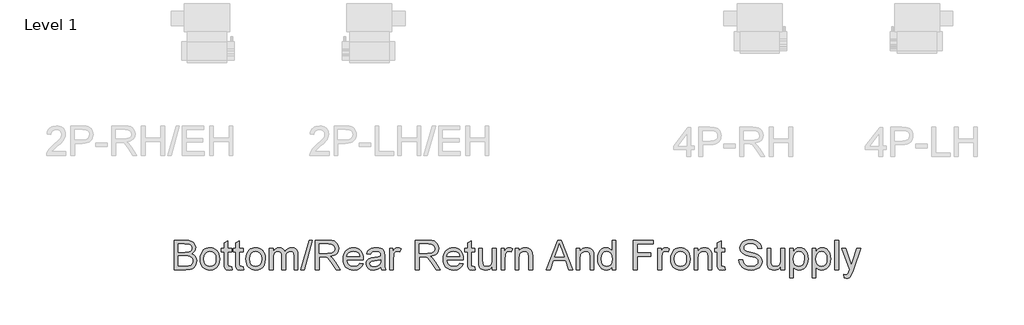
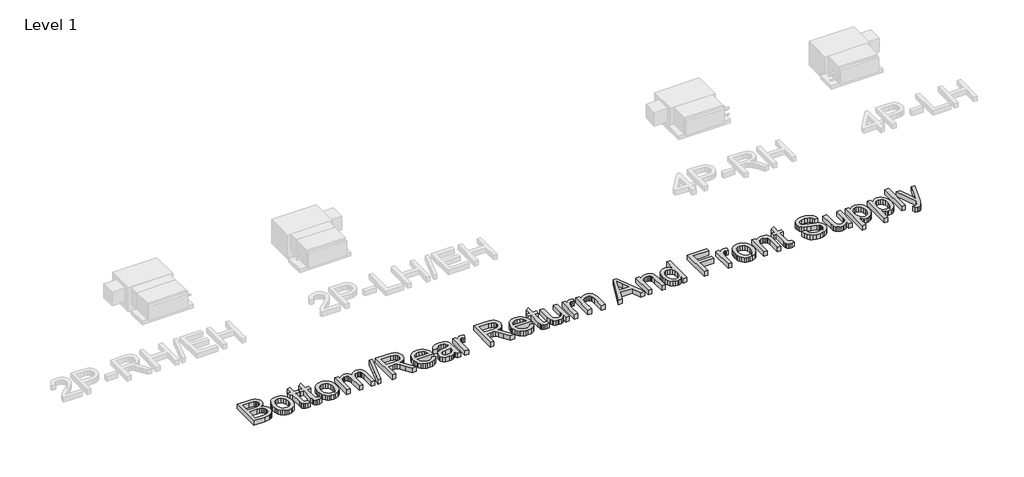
# One storey, part 2 of 3: 1 proxy.
"""IFC4 building model written with IfcOpenShell, lengths in millimetres."""

from ifc_helpers import new_model, si_unit, origin, origin_with_axes, place, context, project, spatial, polyline, outline, extrude, element, save

model = new_model("IFC4")

# Units and contexts
model_context = context("Model", 3, world=origin())
ifc_project = project(units=[si_unit("LENGTHUNIT", "METRE", prefix="MILLI")], contexts=[model_context])

# Site, building, storey
site = spatial("IfcSite", under=ifc_project)
building = spatial("IfcBuilding", under=site)
storey = spatial("IfcBuildingStorey", under=building, Name="Level 1", Elevation=0.0)

# Proxy
placement = place(None, origin())
element("IfcBuildingElementProxy", 1, Name="24\" Arial", ObjectType="24\" Arial", at=placement, inside=storey, context=model_context, shape_type="SweptSolid", body=[
    extrude(outline(polyline([(-17807.2556214, -364.1592875), (-17807.2556214, -59.5921934), (-17691.0353167, -59.5921934), (-17659.0710151, -61.8322041), (-17634.1148796, -68.5522361), (-17614.9864897, -79.9195931), (-17600.5054249, -96.1015789), (-17591.3873731, -115.1370223), (-17588.3480226, -135.0647521), (-17590.9040513, -153.4030967), (-17598.5721376, -170.6446726), (-17611.4080494, -185.7298897), (-17629.4675545, -197.5991579), (-17607.8946717, -208.8642738), (-17591.9543468, -226.0036086), (-17582.1113123, -247.8832149), (-17578.8303009, -273.3691454), (-17581.0703115, -294.6074209), (-17587.7903435, -314.3027844), (-17597.819271, -331.0517438), (-17609.985968, -343.4508071), (-17624.885292, -352.4294391), (-17643.1121009, -358.9171048), (-17691.9276031, -364.1592875), (-17807.2556214, -364.1592875)]), holes=[polyline([(-17769.1847347, -183.3225754), (-17699.660752, -183.3225754), (-17659.0617204, -180.0508585), (-17644.8502004, -174.4090059), (-17634.63538, -165.960169), (-17628.473027, -154.8344728), (-17626.4189093, -141.1620426), (-17628.3336072, -127.8892822), (-17634.077701, -116.3267375), (-17643.3909404, -107.3016323), (-17656.0130752, -101.6411904), (-17704.9401132, -97.6630802), (-17769.1847347, -97.6630802), (-17769.1847347, -183.3225754)]), polyline([(-17769.1847347, -326.0884007), (-17691.1096739, -326.0884007), (-17662.8539377, -324.6012567), (-17638.9480976, -316.3104288), (-17623.1100139, -299.3941657), (-17618.4533942, -287.4412456), (-17616.9011876, -273.7409314), (-17618.722939, -257.8284905), (-17624.1881933, -244.1467655), (-17633.7337989, -233.4486233), (-17647.7966045, -226.4869304), (-17667.7150396, -222.6668292), (-17694.827534, -221.3934621), (-17769.1847347, -221.3934621), (-17769.1847347, -326.0884007)])]), origin_with_axes(), (0.0, 0.0, 1.0), 50.8),
    extrude(outline(polyline([(-17540.7594141, -252.3260576), (-17538.7006491, -223.3592806), (-17532.5243541, -198.3984978), (-17522.2305292, -177.4437092), (-17507.8191742, -160.4949147), (-17493.3102254, -149.6620001), (-17477.2955433, -141.9242039), (-17459.7751279, -137.2815261), (-17440.7489792, -135.7339669), (-17419.7453936, -137.6184572), (-17400.7540998, -143.2719281), (-17383.7750978, -152.6943797), (-17368.8083875, -165.8858118), (-17356.5928936, -182.4000813), (-17347.8675408, -201.7910451), (-17342.6323292, -224.058703), (-17340.8872586, -249.2030552), (-17343.9730824, -287.6643172), (-17353.2305539, -316.942465), (-17368.3901282, -338.8685446), (-17389.1822605, -355.273602), (-17413.8781458, -365.5070117), (-17440.7489792, -368.9181483), (-17462.0592881, -367.040629), (-17481.2271803, -361.408071), (-17498.2526556, -352.0204744), (-17513.135714, -338.8778392), (-17525.2210828, -322.203237), (-17533.8534891, -302.2197393), (-17539.0329328, -278.9273462), (-17540.7594141, -252.3260576)]), holes=[polyline([(-17502.6885273, -252.2517004), (-17498.2828632, -286.7069683), (-17485.0658708, -311.2541392), (-17465.1753196, -325.948981), (-17440.7489792, -330.8472615), (-17416.4341745, -325.921097), (-17396.5808019, -311.1426034), (-17383.3638095, -286.2701197), (-17378.9581454, -251.0619852), (-17383.3916935, -217.6105395), (-17396.6923377, -193.3979761), (-17416.5735943, -178.7031343), (-17440.7489792, -173.8048537), (-17465.1753196, -178.684545), (-17485.0658708, -193.3236189), (-17498.2828632, -217.8150218), (-17502.6885273, -252.2517004)])]), origin_with_axes(), (0.0, 0.0, 1.0), 50.8),
    extrude(outline(polyline([(-17217.1568767, -332.4087628), (-17212.3980158, -365.2746455), (-17240.8768237, -368.9181483), (-17259.1501058, -367.3380578), (-17272.7760628, -362.5977862), (-17282.4053203, -355.2921913), (-17288.6885037, -346.0161305), (-17292.1461136, -330.0851002), (-17293.2986502, -302.8145969), (-17293.2986502, -178.5637145), (-17321.8518152, -178.5637145), (-17321.8518152, -140.4928278), (-17293.2986502, -140.4928278), (-17293.2986502, -86.137714), (-17255.2277634, -63.7561966), (-17255.2277634, -140.4928278), (-17217.1568767, -140.4928278), (-17217.1568767, -178.5637145), (-17255.2277634, -178.5637145), (-17255.2277634, -301.6992389), (-17253.220119, -321.3295399), (-17246.7138639, -328.2819381), (-17233.7385324, -330.8472615), (-17217.1568767, -332.4087628)])), origin_with_axes(), (0.0, 0.0, 1.0), 50.8),
    extrude(outline(polyline([(-17098.1853555, -332.4087628), (-17093.4264947, -365.2746455), (-17121.9053026, -368.9181483), (-17140.1785846, -367.3380578), (-17153.8045417, -362.5977862), (-17163.4337991, -355.2921913), (-17169.7169826, -346.0161305), (-17173.1745924, -330.0851002), (-17174.3271291, -302.8145969), (-17174.3271291, -178.5637145), (-17202.8802941, -178.5637145), (-17202.8802941, -140.4928278), (-17174.3271291, -140.4928278), (-17174.3271291, -86.137714), (-17136.2562423, -63.7561966), (-17136.2562423, -140.4928278), (-17098.1853555, -140.4928278), (-17098.1853555, -178.5637145), (-17136.2562423, -178.5637145), (-17136.2562423, -301.6992389), (-17134.2485979, -321.3295399), (-17127.7423428, -328.2819381), (-17114.7670113, -330.8472615), (-17098.1853555, -332.4087628)])), origin_with_axes(), (0.0, 0.0, 1.0), 50.8),
    extrude(outline(polyline([(-17069.6321905, -252.3260576), (-17067.5734255, -223.3592806), (-17061.3971305, -198.3984978), (-17051.1033055, -177.4437092), (-17036.6919506, -160.4949147), (-17022.1830018, -149.6620001), (-17006.1683197, -141.9242039), (-16988.6479043, -137.2815261), (-16969.6217555, -135.7339669), (-16948.61817, -137.6184572), (-16929.6268762, -143.2719281), (-16912.6478741, -152.6943797), (-16897.6811638, -165.8858118), (-16885.46567, -182.4000813), (-16876.7403172, -201.7910451), (-16871.5051055, -224.058703), (-16869.760035, -249.2030552), (-16872.8458588, -287.6643172), (-16882.1033303, -316.942465), (-16897.2629046, -338.8685446), (-16918.0550368, -355.273602), (-16942.7509221, -365.5070117), (-16969.6217555, -368.9181483), (-16990.9320645, -367.040629), (-17010.0999567, -361.408071), (-17027.125432, -352.0204744), (-17042.0084904, -338.8778392), (-17054.0938592, -322.203237), (-17062.7262655, -302.2197393), (-17067.9057092, -278.9273462), (-17069.6321905, -252.3260576)]), holes=[polyline([(-17031.5613037, -252.2517004), (-17027.1556396, -286.7069683), (-17013.9386471, -311.2541392), (-16994.048096, -325.948981), (-16969.6217555, -330.8472615), (-16945.3069509, -325.921097), (-16925.4535783, -311.1426034), (-16912.2365859, -286.2701197), (-16907.8309217, -251.0619852), (-16912.2644698, -217.6105395), (-16925.5651141, -193.3979761), (-16945.4463706, -178.7031343), (-16969.6217555, -173.8048537), (-16994.048096, -178.684545), (-17013.9386471, -193.3236189), (-17027.1556396, -217.8150218), (-17031.5613037, -252.2517004)])]), origin_with_axes(), (0.0, 0.0, 1.0), 50.8),
    extrude(outline(polyline([(-16826.9302874, -364.1592875), (-16826.9302874, -140.4928278), (-16788.8594006, -140.4928278), (-16788.8594006, -177.2996421), (-16777.4083917, -160.3926736), (-16762.685666, -147.1477972), (-16745.1931345, -138.5874245), (-16725.4327084, -135.7339669), (-16704.2594955, -138.6431924), (-16687.2874645, -147.3708688), (-16674.6095617, -161.3407279), (-16666.3187339, -179.9765013), (-16652.4418213, -160.6203925), (-16636.6130322, -146.7946005), (-16618.8323666, -138.4991253), (-16599.0998244, -135.7339669), (-16570.4815968, -140.3348187), (-16549.3176786, -154.1373741), (-16536.2401059, -177.5134191), (-16531.880915, -210.8347396), (-16531.880915, -364.1592875), (-16569.9518018, -364.1592875), (-16569.9518018, -227.1933238), (-16573.4837688, -195.4056205), (-16578.4471119, -186.6407654), (-16586.2732073, -179.7534297), (-16596.3393134, -175.2919977), (-16608.0226885, -173.8048537), (-16628.6475171, -177.6156602), (-16645.4615391, -189.0480798), (-16656.6430031, -208.8828631), (-16660.3701578, -237.9007607), (-16660.3701578, -364.1592875), (-16698.4410446, -364.1592875), (-16698.4410446, -222.9549633), (-16700.6438766, -201.4285537), (-16707.2523729, -186.0737918), (-16718.8799801, -176.8720882), (-16736.1401453, -173.8048537), (-16750.8071032, -175.8496767), (-16764.3215244, -181.9841457), (-16775.4751045, -192.0595464), (-16783.059539, -205.9271644), (-16787.4094352, -225.1670901), (-16788.8594006, -251.359414), (-16788.8594006, -364.1592875), (-16826.9302874, -364.1592875)])), origin_with_axes(), (0.0, 0.0, 1.0), 50.8),
    extrude(outline(polyline([(-16503.3277499, -364.1592875), (-16417.6682547, -59.5921934), (-16383.315228, -59.5921934), (-16468.9747232, -364.1592875), (-16503.3277499, -364.1592875)])), origin_with_axes(), (0.0, 0.0, 1.0), 50.8),
    extrude(outline(polyline([(-16351.0442029, -364.1592875), (-16351.0442029, -59.5921934), (-16219.8037437, -59.5921934), (-16184.5305466, -61.6463111), (-16158.8680177, -67.8086641), (-16140.1114138, -79.1853158), (-16125.5559918, -96.8823295), (-16116.2148684, -118.8269984), (-16113.1011607, -142.9466154), (-16118.2596915, -172.9497459), (-16133.7352839, -197.8222295), (-16145.4581613, -207.9580454), (-16159.9926703, -216.058333), (-16197.4965835, -226.152323), (-16175.858638, -242.4365499), (-16145.0003998, -281.6227947), (-16094.2144317, -364.1592875), (-16138.4569661, -364.1592875), (-16178.0893541, -301.0300241), (-16206.7168763, -259.2412773), (-16226.8304991, -239.4994405), (-16244.9364775, -232.2496134), (-16267.0205661, -230.9111838), (-16312.9733161, -230.9111838), (-16312.9733161, -364.1592875), (-16351.0442029, -364.1592875)]), holes=[polyline([(-16312.9733161, -192.840297), (-16227.7599641, -192.840297), (-16203.2871505, -191.4925728), (-16184.2981803, -187.4494), (-16170.0030085, -180.4412338), (-16159.6115897, -170.1985294), (-16153.281933, -157.8087609), (-16151.1720474, -144.3594022), (-16155.1966309, -125.7886913), (-16167.2703814, -110.8243047), (-16188.0439243, -100.9533863), (-16218.1678852, -97.6630802), (-16312.9733161, -97.6630802), (-16312.9733161, -192.840297)])]), origin_with_axes(), (0.0, 0.0, 1.0), 50.8),
    extrude(outline(polyline([(-15894.639705, -297.5352356), (-15857.3123902, -302.2940965), (-15870.7617489, -330.4197076), (-15892.223096, -351.4442061), (-15921.2131096, -364.5496628), (-15957.248468, -368.9181483), (-15980.8708212, -367.033658), (-16001.9185563, -361.3801871), (-16020.3916734, -351.9577356), (-16036.2901723, -338.7663034), (-16049.0749635, -322.1730294), (-16058.2069572, -302.545052), (-16063.6861535, -279.8823715), (-16065.5125522, -254.1849876), (-16063.6675642, -227.6162303), (-16058.1326, -204.1983595), (-16048.9076598, -183.9313749), (-16035.9927435, -166.8152768), (-16020.1360705, -153.2172037), (-16002.08586, -143.5042944), (-15981.8421121, -137.6765488), (-15959.4048268, -135.7339669), (-15937.6902005, -137.6719015), (-15918.0529286, -143.4857051), (-15900.4930109, -153.1753778), (-15885.0104475, -166.7409196), (-15872.3720471, -183.8198391), (-15863.3446182, -204.0496451), (-15857.9281608, -227.4303373), (-15856.122675, -253.961916), (-15856.3457466, -264.2232097), (-16027.4416655, -264.2232097), (-16020.8517585, -292.7206069), (-16005.5434698, -313.6707482), (-15983.4500866, -326.5531332), (-15956.504896, -330.8472615), (-15936.2425588, -328.8582064), (-15919.1775812, -322.8910411), (-15905.3099633, -312.5739795), (-15894.639705, -297.5352356)]), holes=[polyline([(-16027.4416655, -226.152323), (-15894.1935618, -226.152323), (-15899.3427979, -206.0387002), (-15909.4367879, -191.6505818), (-15931.6324123, -178.2662857), (-15959.5535412, -173.8048537), (-15985.2160701, -177.3647047), (-16006.4357563, -188.0442576), (-16021.1863659, -204.6909759), (-16027.4416655, -226.152323)])]), origin_with_axes(), (0.0, 0.0, 1.0), 50.8),
    extrude(outline(polyline([(-15675.2859629, -335.6061224), (-15693.4755932, -351.2025452), (-15712.2043131, -361.408071), (-15731.8996766, -367.040629), (-15752.9892377, -368.9181483), (-15784.8048249, -364.4009484), (-15808.2738164, -350.8493485), (-15822.7455866, -330.2709932), (-15827.56951, -304.6735269), (-15825.7477586, -288.8912111), (-15820.2825043, -274.5588606), (-15811.8522567, -262.2899225), (-15801.1355251, -252.6978436), (-15774.4784687, -240.2058339), (-15741.5382288, -234.4803294), (-15702.6122342, -228.4573962), (-15675.5090345, -221.3934621), (-15675.2859629, -212.9167412), (-15677.9070543, -195.9261209), (-15685.7703282, -184.8097194), (-15703.3558062, -176.5560701), (-15727.8565038, -173.8048537), (-15750.53545, -175.6358997), (-15766.3735338, -181.1290379), (-15777.1739172, -191.2880905), (-15784.7397624, -207.1168796), (-15822.8106491, -202.3580187), (-15816.2021529, -181.5380025), (-15806.3405292, -165.1794184), (-15792.3056075, -152.6688194), (-15773.1772177, -143.3927586), (-15749.7825834, -137.6486648), (-15722.9489286, -135.7339669), (-15697.2120425, -137.4255932), (-15676.8102855, -142.5004722), (-15661.4276397, -150.1313799), (-15650.7480867, -159.4910925), (-15643.6655633, -171.0629319), (-15639.0740062, -185.3302198), (-15637.2150762, -218.6422457), (-15637.2150762, -266.0077825), (-15635.281789, -332.1485126), (-15627.6973545, -364.1592875), (-15665.7682412, -364.1592875), (-15671.8655317, -350.9237057), (-15675.2859629, -335.6061224)]), holes=[polyline([(-15675.2859629, -259.4643489), (-15736.7050107, -271.1384294), (-15769.4593576, -277.310077), (-15784.2936192, -287.3482991), (-15789.4986232, -301.9966677), (-15786.6637549, -313.3175515), (-15778.1591501, -322.5936123), (-15764.1707017, -328.7838492), (-15744.8843028, -330.8472615), (-15724.4360726, -328.5700723), (-15706.3672728, -321.7385045), (-15691.7189043, -311.6723984), (-15681.5319678, -299.6915945), (-15677.0147679, -287.3482991), (-15675.5090345, -270.246143), (-15675.2859629, -259.4643489)])]), origin_with_axes(), (0.0, 0.0, 1.0), 50.8),
    extrude(outline(polyline([(-15584.8676069, -364.1592875), (-15584.8676069, -140.4928278), (-15551.555581, -140.4928278), (-15551.555581, -173.5817821), (-15539.2494643, -154.3976243), (-15527.9099911, -143.0953298), (-15516.5333394, -137.5743076), (-15504.1156869, -135.7339669), (-15485.1546007, -138.6710763), (-15465.8960858, -147.4824046), (-15478.6111671, -181.6123597), (-15491.9954632, -175.7567302), (-15505.3797593, -173.8048537), (-15516.7471164, -175.682373), (-15526.9061689, -181.3149309), (-15535.113345, -190.2749736), (-15540.6250725, -202.1349471), (-15545.2538082, -223.4011065), (-15546.7967201, -246.6005532), (-15546.7967201, -364.1592875), (-15584.8676069, -364.1592875)])), origin_with_axes(), (0.0, 0.0, 1.0), 50.8),
    extrude(outline(polyline([(-15318.3713996, -364.1592875), (-15318.3713996, -59.5921934), (-15187.1309403, -59.5921934), (-15151.8577433, -61.6463111), (-15126.1952144, -67.8086641), (-15107.4386105, -79.1853158), (-15092.8831884, -96.8823295), (-15083.5420651, -118.8269984), (-15080.4283573, -142.9466154), (-15085.5868881, -172.9497459), (-15101.0624805, -197.8222295), (-15112.7853579, -207.9580454), (-15127.319867, -216.058333), (-15164.8237801, -226.152323), (-15143.1858347, -242.4365499), (-15112.3275964, -281.6227947), (-15061.5416284, -364.1592875), (-15105.7841628, -364.1592875), (-15145.4165507, -301.0300241), (-15174.044073, -259.2412773), (-15194.1576958, -239.4994405), (-15212.2636742, -232.2496134), (-15234.3477628, -230.9111838), (-15280.3005128, -230.9111838), (-15280.3005128, -364.1592875), (-15318.3713996, -364.1592875)]), holes=[polyline([(-15280.3005128, -192.840297), (-15195.0871608, -192.840297), (-15170.6143471, -191.4925728), (-15151.625377, -187.4494), (-15137.3302052, -180.4412338), (-15126.9387864, -170.1985294), (-15120.6091297, -157.8087609), (-15118.4992441, -144.3594022), (-15122.5238276, -125.7886913), (-15134.597578, -110.8243047), (-15155.371121, -100.9533863), (-15185.4950819, -97.6630802), (-15280.3005128, -97.6630802), (-15280.3005128, -192.840297)])]), origin_with_axes(), (0.0, 0.0, 1.0), 50.8),
    extrude(outline(polyline([(-14861.9669017, -297.5352356), (-14824.6395869, -302.2940965), (-14838.0889456, -330.4197076), (-14859.5502927, -351.4442061), (-14888.5403063, -364.5496628), (-14924.5756647, -368.9181483), (-14948.1980179, -367.033658), (-14969.245753, -361.3801871), (-14987.71887, -351.9577356), (-15003.617369, -338.7663034), (-15016.4021602, -322.1730294), (-15025.5341539, -302.545052), (-15031.0133501, -279.8823715), (-15032.8397489, -254.1849876), (-15030.9947608, -227.6162303), (-15025.4597967, -204.1983595), (-15016.2348565, -183.9313749), (-15003.3199402, -166.8152768), (-14987.4632672, -153.2172037), (-14969.4130567, -143.5042944), (-14949.1693088, -137.6765488), (-14926.7320235, -135.7339669), (-14905.0173972, -137.6719015), (-14885.3801252, -143.4857051), (-14867.8202076, -153.1753778), (-14852.3376442, -166.7409196), (-14839.6992437, -183.8198391), (-14830.6718148, -204.0496451), (-14825.2553575, -227.4303373), (-14823.4498717, -253.961916), (-14823.6729433, -264.2232097), (-14994.7688621, -264.2232097), (-14988.1789552, -292.7206069), (-14972.8706665, -313.6707482), (-14950.7772833, -326.5531332), (-14923.8320927, -330.8472615), (-14903.5697555, -328.8582064), (-14886.5047779, -322.8910411), (-14872.63716, -312.5739795), (-14861.9669017, -297.5352356)]), holes=[polyline([(-14994.7688621, -226.152323), (-14861.5207585, -226.152323), (-14866.6699946, -206.0387002), (-14876.7639846, -191.6505818), (-14898.959609, -178.2662857), (-14926.8807379, -173.8048537), (-14952.5432668, -177.3647047), (-14973.7629529, -188.0442576), (-14988.5135626, -204.6909759), (-14994.7688621, -226.152323)])]), origin_with_axes(), (0.0, 0.0, 1.0), 50.8),
    extrude(outline(polyline([(-14704.4783506, -332.4087628), (-14699.7194897, -365.2746455), (-14728.1982976, -368.9181483), (-14746.4715797, -367.3380578), (-14760.0975367, -362.5977862), (-14769.7267942, -355.2921913), (-14776.0099777, -346.0161305), (-14779.4675875, -330.0851002), (-14780.6201241, -302.8145969), (-14780.6201241, -178.5637145), (-14809.1732892, -178.5637145), (-14809.1732892, -140.4928278), (-14780.6201241, -140.4928278), (-14780.6201241, -86.137714), (-14742.5492373, -63.7561966), (-14742.5492373, -140.4928278), (-14704.4783506, -140.4928278), (-14704.4783506, -178.5637145), (-14742.5492373, -178.5637145), (-14742.5492373, -301.6992389), (-14740.5415929, -321.3295399), (-14734.0353379, -328.2819381), (-14721.0600063, -330.8472615), (-14704.4783506, -332.4087628)])), origin_with_axes(), (0.0, 0.0, 1.0), 50.8),
    extrude(outline(polyline([(-14523.6416385, -364.1592875), (-14523.6416385, -325.7166147), (-14537.4163099, -344.6172857), (-14553.458876, -358.1177649), (-14571.7693366, -366.2180525), (-14592.3476919, -368.9181483), (-14610.8905189, -367.0220397), (-14628.1506841, -361.3337138), (-14642.6317489, -352.7826358), (-14652.8372747, -342.2982705), (-14659.7060211, -329.5645998), (-14664.1767478, -314.2656058), (-14666.4074638, -278.8715783), (-14666.4074638, -140.4928278), (-14628.3365771, -140.4928278), (-14628.3365771, -260.9514929), (-14626.0315039, -299.7659517), (-14620.4825978, -312.7133992), (-14610.9741707, -322.5564337), (-14598.1382589, -328.7745546), (-14582.6068986, -330.8472615), (-14566.1832519, -328.7280813), (-14550.8191953, -322.3705407), (-14538.1505873, -312.3602025), (-14529.8132861, -299.2826298), (-14525.1845504, -281.3718391), (-14523.6416385, -256.8618469), (-14523.6416385, -140.4928278), (-14485.5707517, -140.4928278), (-14485.5707517, -364.1592875), (-14523.6416385, -364.1592875)])), origin_with_axes(), (0.0, 0.0, 1.0), 50.8),
    extrude(outline(polyline([(-14433.2232824, -364.1592875), (-14433.2232824, -140.4928278), (-14399.9112565, -140.4928278), (-14399.9112565, -173.5817821), (-14387.6051398, -154.3976243), (-14376.2656667, -143.0953298), (-14364.889015, -137.5743076), (-14352.4713625, -135.7339669), (-14333.5102763, -138.6710763), (-14314.2517613, -147.4824046), (-14326.9668426, -181.6123597), (-14340.3511388, -175.7567302), (-14353.7354349, -173.8048537), (-14365.1027919, -175.682373), (-14375.2618445, -181.3149309), (-14383.4690205, -190.2749736), (-14388.980748, -202.1349471), (-14393.6094838, -223.4011065), (-14395.1523957, -246.6005532), (-14395.1523957, -364.1592875), (-14433.2232824, -364.1592875)])), origin_with_axes(), (0.0, 0.0, 1.0), 50.8),
    extrude(outline(polyline([(-14290.4574571, -364.1592875), (-14290.4574571, -140.4928278), (-14252.3865703, -140.4928278), (-14252.3865703, -171.722852), (-14239.1602833, -155.9777148), (-14223.2757263, -144.7311882), (-14204.7328993, -137.9832722), (-14183.5318025, -135.7339669), (-14164.765904, -137.5464237), (-14147.5800959, -142.983794), (-14133.2477455, -151.3675684), (-14123.0422197, -162.0192374), (-14111.6283894, -190.0147234), (-14109.620745, -226.8215378), (-14109.620745, -364.1592875), (-14147.6916317, -364.1592875), (-14147.6916317, -231.9521846), (-14152.0787066, -198.2683727), (-14158.1481131, -188.2394453), (-14167.5821829, -180.4598231), (-14179.6745227, -175.468596), (-14193.718739, -173.8048537), (-14216.0166045, -177.541303), (-14235.024164, -188.750651), (-14242.6202168, -197.901234), (-14248.0459687, -210.4071857), (-14252.3865703, -245.4851951), (-14252.3865703, -364.1592875), (-14290.4574571, -364.1592875)])), origin_with_axes(), (0.0, 0.0, 1.0), 50.8),
    extrude(outline(polyline([(-13969.0112785, -364.1592875), (-13847.4372553, -59.5921934), (-13815.0175158, -59.5921934), (-13693.4434927, -364.1592875), (-13733.6707382, -364.1592875), (-13768.5442654, -268.9820706), (-13893.984863, -268.9820706), (-13928.7840329, -364.1592875), (-13969.0112785, -364.1592875)]), holes=[polyline([(-13880.0057092, -230.9111838), (-13782.4490619, -230.9111838), (-13809.886869, -156.0334827), (-13831.2273856, -97.6630802), (-13850.1884717, -149.490049), (-13880.0057092, -230.9111838)])]), origin_with_axes(), (0.0, 0.0, 1.0), 50.8),
    extrude(outline(polyline([(-13657.5289647, -364.1592875), (-13657.5289647, -140.4928278), (-13619.458078, -140.4928278), (-13619.458078, -171.722852), (-13606.2317909, -155.9777148), (-13590.3472339, -144.7311882), (-13571.804407, -137.9832722), (-13550.6033101, -135.7339669), (-13531.8374116, -137.5464237), (-13514.6516036, -142.983794), (-13500.3192532, -151.3675684), (-13490.1137274, -162.0192374), (-13478.699897, -190.0147234), (-13476.6922526, -226.8215378), (-13476.6922526, -364.1592875), (-13514.7631394, -364.1592875), (-13514.7631394, -231.9521846), (-13519.1502142, -198.2683727), (-13525.2196207, -188.2394453), (-13534.6536906, -180.4598231), (-13546.7460303, -175.468596), (-13560.7902466, -173.8048537), (-13583.0881122, -177.541303), (-13602.0956716, -188.750651), (-13609.6917244, -197.901234), (-13615.1174764, -210.4071857), (-13619.458078, -245.4851951), (-13619.458078, -364.1592875), (-13657.5289647, -364.1592875)])), origin_with_axes(), (0.0, 0.0, 1.0), 50.8),
    extrude(outline(polyline([(-13286.3378188, -364.1592875), (-13286.3378188, -328.2447595), (-13297.7284125, -346.0393671), (-13311.5263206, -358.7498011), (-13327.731543, -366.3760615), (-13346.3440798, -368.9181483), (-13370.9563132, -365.2374669), (-13393.486545, -354.1954226), (-13412.559167, -336.5634714), (-13426.798571, -313.1130692), (-13435.6656671, -284.7922704), (-13438.6213659, -252.5491292), (-13435.8980334, -220.705658), (-13427.728036, -191.9480106), (-13414.1206682, -167.9120455), (-13395.0852249, -150.233621), (-13372.0623766, -139.3588804), (-13346.4927942, -135.7339669), (-13327.8663154, -138.3271743), (-13311.3961955, -146.1067964), (-13297.435631, -158.0318325), (-13286.3378188, -173.0612817), (-13286.3378188, -59.5921934), (-13248.2669321, -59.5921934), (-13248.2669321, -364.1592875), (-13286.3378188, -364.1592875)]), holes=[polyline([(-13400.5504791, -252.4004148), (-13396.2563508, -286.8370934), (-13383.3739657, -311.3284964), (-13364.6545405, -325.9675703), (-13342.8492914, -330.8472615), (-13321.0533369, -326.1906419), (-13302.8079388, -312.2207828), (-13290.4553488, -288.6774341), (-13286.3378188, -255.3003456), (-13290.529706, -218.8095494), (-13303.1053676, -193.5095119), (-13321.8154982, -178.7310182), (-13344.4107926, -173.8048537), (-13366.4391133, -178.5358306), (-13384.4893238, -192.7287612), (-13396.5351903, -217.1086284), (-13400.5504791, -252.4004148)])]), origin_with_axes(), (0.0, 0.0, 1.0), 50.8),
    extrude(outline(polyline([(-13067.43022, -364.1592875), (-13067.43022, -59.5921934), (-12862.7992036, -59.5921934), (-12862.7992036, -97.6630802), (-13029.3593332, -97.6630802), (-13029.3593332, -188.0814362), (-12886.5935079, -188.0814362), (-12886.5935079, -226.152323), (-13029.3593332, -226.152323), (-13029.3593332, -364.1592875), (-13067.43022, -364.1592875)])), origin_with_axes(), (0.0, 0.0, 1.0), 50.8),
    extrude(outline(polyline([(-12815.2105952, -364.1592875), (-12815.2105952, -140.4928278), (-12781.8985693, -140.4928278), (-12781.8985693, -173.5817821), (-12769.5924526, -154.3976243), (-12758.2529795, -143.0953298), (-12746.8763278, -137.5743076), (-12734.4586752, -135.7339669), (-12715.4975891, -138.6710763), (-12696.2390741, -147.4824046), (-12708.9541554, -181.6123597), (-12722.3384515, -175.7567302), (-12735.7227476, -173.8048537), (-12747.0901047, -175.682373), (-12757.2491573, -181.3149309), (-12765.4563333, -190.2749736), (-12770.9680608, -202.1349471), (-12775.5967965, -223.4011065), (-12777.1397084, -246.6005532), (-12777.1397084, -364.1592875), (-12815.2105952, -364.1592875)])), origin_with_axes(), (0.0, 0.0, 1.0), 50.8),
    extrude(outline(polyline([(-12681.9624915, -252.3260576), (-12679.9037265, -223.3592806), (-12673.7274316, -198.3984978), (-12663.4336066, -177.4437092), (-12649.0222516, -160.4949147), (-12634.5133028, -149.6620001), (-12618.4986207, -141.9242039), (-12600.9782053, -137.2815261), (-12581.9520566, -135.7339669), (-12560.9484711, -137.6184572), (-12541.9571773, -143.2719281), (-12524.9781752, -152.6943797), (-12510.0114649, -165.8858118), (-12497.795971, -182.4000813), (-12489.0706183, -201.7910451), (-12483.8354066, -224.058703), (-12482.0903361, -249.2030552), (-12485.1761599, -287.6643172), (-12494.4336314, -316.942465), (-12509.5932057, -338.8685446), (-12530.3853379, -355.273602), (-12555.0812232, -365.5070117), (-12581.9520566, -368.9181483), (-12603.2623656, -367.040629), (-12622.4302577, -361.408071), (-12639.455733, -352.0204744), (-12654.3387915, -338.8778392), (-12666.4241603, -322.203237), (-12675.0565665, -302.2197393), (-12680.2360103, -278.9273462), (-12681.9624915, -252.3260576)]), holes=[polyline([(-12643.8916048, -252.2517004), (-12639.4859406, -286.7069683), (-12626.2689482, -311.2541392), (-12606.378397, -325.948981), (-12581.9520566, -330.8472615), (-12557.637252, -325.921097), (-12537.7838794, -311.1426034), (-12524.566887, -286.2701197), (-12520.1612228, -251.0619852), (-12524.5947709, -217.6105395), (-12537.8954152, -193.3979761), (-12557.7766717, -178.7031343), (-12581.9520566, -173.8048537), (-12606.378397, -178.684545), (-12626.2689482, -193.3236189), (-12639.4859406, -217.8150218), (-12643.8916048, -252.2517004)])]), origin_with_axes(), (0.0, 0.0, 1.0), 50.8),
    extrude(outline(polyline([(-12439.2605885, -364.1592875), (-12439.2605885, -140.4928278), (-12401.1897017, -140.4928278), (-12401.1897017, -171.722852), (-12387.9634146, -155.9777148), (-12372.0788576, -144.7311882), (-12353.5360307, -137.9832722), (-12332.3349339, -135.7339669), (-12313.5690353, -137.5464237), (-12296.3832273, -142.983794), (-12282.0508769, -151.3675684), (-12271.8453511, -162.0192374), (-12260.4315208, -190.0147234), (-12258.4238764, -226.8215378), (-12258.4238764, -364.1592875), (-12296.4947631, -364.1592875), (-12296.4947631, -231.9521846), (-12300.881838, -198.2683727), (-12306.9512445, -188.2394453), (-12316.3853143, -180.4598231), (-12328.4776541, -175.468596), (-12342.5218703, -173.8048537), (-12364.8197359, -177.541303), (-12383.8272953, -188.750651), (-12391.4233481, -197.901234), (-12396.8491001, -210.4071857), (-12401.1897017, -245.4851951), (-12401.1897017, -364.1592875), (-12439.2605885, -364.1592875)])), origin_with_axes(), (0.0, 0.0, 1.0), 50.8),
    extrude(outline(polyline([(-12125.1757727, -332.4087628), (-12120.4169119, -365.2746455), (-12148.8957197, -368.9181483), (-12167.1690018, -367.3380578), (-12180.7949588, -362.5977862), (-12190.4242163, -355.2921913), (-12196.7073998, -346.0161305), (-12200.1650096, -330.0851002), (-12201.3175462, -302.8145969), (-12201.3175462, -178.5637145), (-12229.8707113, -178.5637145), (-12229.8707113, -140.4928278), (-12201.3175462, -140.4928278), (-12201.3175462, -86.137714), (-12163.2466595, -63.7561966), (-12163.2466595, -140.4928278), (-12125.1757727, -140.4928278), (-12125.1757727, -178.5637145), (-12163.2466595, -178.5637145), (-12163.2466595, -301.6992389), (-12161.239015, -321.3295399), (-12154.73276, -328.2819381), (-12141.7574285, -330.8472615), (-12125.1757727, -332.4087628)])), origin_with_axes(), (0.0, 0.0, 1.0), 50.8),
    extrude(outline(polyline([(-11977.6510865, -259.4643489), (-11939.5801998, -259.4643489), (-11935.2117142, -280.5910885), (-11927.3112616, -297.5724142), (-11914.9865556, -311.0496569), (-11897.3453098, -321.6641473), (-11875.7817216, -328.551483), (-11851.6899885, -330.8472615), (-11830.479597, -329.109162), (-11811.9088861, -323.8948633), (-11796.8608477, -315.641214), (-11786.2184733, -304.7850627), (-11779.8888166, -292.3209369), (-11777.778931, -279.2433643), (-11779.3590215, -266.500399), (-11784.0992931, -255.4862386), (-11793.7285506, -246.0893474), (-11809.9755989, -238.1981895), (-11865.4088921, -223.6613567), (-11901.7974471, -214.0413939), (-11925.0805456, -204.8861636), (-11944.0323371, -192.0781357), (-11957.4631065, -176.5560701), (-11965.4658002, -158.654574), (-11968.1333648, -138.7082549), (-11964.833764, -116.4103894), (-11954.9349617, -95.6182571), (-11938.697208, -77.9956006), (-11916.3807531, -65.206162), (-11889.5935716, -57.4265399), (-11859.9436378, -54.8333325), (-11827.8213271, -57.5473704), (-11799.7143052, -65.6894838), (-11776.6263944, -79.0923693), (-11759.5614169, -97.588723), (-11748.7610335, -120.0260083), (-11744.4669051, -145.2516886), (-11782.5377919, -145.2516886), (-11789.5273687, -122.5355638), (-11804.1013801, -106.139801), (-11826.8732728, -96.2131147), (-11858.4564938, -92.9042193), (-11890.7832868, -96.1759361), (-11912.9603219, -105.9910866), (-11925.786939, -120.4349729), (-11930.0624781, -137.5928969), (-11927.0324221, -152.2226762), (-11917.9422543, -163.9897032), (-11896.4530233, -174.5112471), (-11855.7796346, -185.2558626), (-11813.8049948, -195.4613884), (-11788.4120107, -204.3656632), (-11766.7090028, -218.1775132), (-11751.5680178, -235.2239014), (-11742.6730376, -255.3189349), (-11739.7080443, -278.2767207), (-11743.1191809, -301.7457121), (-11753.3525906, -323.8205061), (-11769.9900143, -342.8187709), (-11792.6131926, -357.0581748), (-11819.8186334, -365.9531549), (-11850.2028445, -368.9181483), (-11887.5022753, -365.7207887), (-11918.2025046, -356.1287098), (-11942.6567289, -340.104733), (-11961.2181452, -317.6116798), (-11973.1338866, -290.2110514), (-11977.6510865, -259.4643489)])), origin_with_axes(), (0.0, 0.0, 1.0), 50.8),
    extrude(outline(polyline([(-11544.5947496, -364.1592875), (-11544.5947496, -325.7166147), (-11558.3694211, -344.6172857), (-11574.4119871, -358.1177649), (-11592.7224478, -366.2180525), (-11613.3008031, -368.9181483), (-11631.84363, -367.0220397), (-11649.1037952, -361.3337138), (-11663.5848601, -352.7826358), (-11673.7903858, -342.2982705), (-11680.6591323, -329.5645998), (-11685.129859, -314.2656058), (-11687.360575, -278.8715783), (-11687.360575, -140.4928278), (-11649.2896882, -140.4928278), (-11649.2896882, -260.9514929), (-11646.984615, -299.7659517), (-11641.4357089, -312.7133992), (-11631.9272819, -322.5564337), (-11619.0913701, -328.7745546), (-11603.5600098, -330.8472615), (-11587.1363631, -328.7280813), (-11571.7723065, -322.3705407), (-11559.1036984, -312.3602025), (-11550.7663973, -299.2826298), (-11546.1376615, -281.3718391), (-11544.5947496, -256.8618469), (-11544.5947496, -140.4928278), (-11506.5238629, -140.4928278), (-11506.5238629, -364.1592875), (-11544.5947496, -364.1592875)])), origin_with_axes(), (0.0, 0.0, 1.0), 50.8),
    extrude(outline(polyline([(-11454.1763936, -449.8187827), (-11454.1763936, -140.4928278), (-11416.1055068, -140.4928278), (-11416.1055068, -177.8201425), (-11403.6878543, -159.4074407), (-11389.7830578, -146.2555108), (-11373.573188, -138.3643529), (-11354.2403158, -135.7339669), (-11328.4941351, -139.4146483), (-11305.9824926, -150.4566926), (-11287.6534426, -168.190885), (-11274.4550395, -191.9480106), (-11266.4802297, -219.9992646), (-11263.8219598, -250.615842), (-11266.8241318, -283.1750012), (-11275.8306477, -312.29514), (-11290.5533734, -336.4984088), (-11310.7041748, -354.3069584), (-11334.1731663, -365.2653508), (-11358.8504623, -368.9181483), (-11376.3522884, -366.4736553), (-11391.9765952, -359.1401764), (-11405.3515967, -348.0702482), (-11416.1055068, -334.4164072), (-11416.1055068, -449.8187827), (-11454.1763936, -449.8187827)]), holes=[polyline([(-11416.1055068, -254.1106304), (-11411.9879768, -288.2405855), (-11399.6353869, -312.109247), (-11381.408578, -326.1627579), (-11359.6683915, -330.8472615), (-11337.5750082, -325.9954542), (-11318.8834669, -311.4400322), (-11306.1405016, -286.6976736), (-11301.8928465, -251.2850568), (-11306.0382605, -217.3409947), (-11318.4745023, -193.1377259), (-11336.6734272, -178.6380717), (-11358.1068903, -173.8048537), (-11379.6240052, -178.9447952), (-11398.5200289, -194.3646197), (-11411.7091373, -219.5810053), (-11416.1055068, -254.1106304)])]), origin_with_axes(), (0.0, 0.0, 1.0), 50.8),
    extrude(outline(polyline([(-11220.9922122, -449.8187827), (-11220.9922122, -140.4928278), (-11182.9213254, -140.4928278), (-11182.9213254, -177.8201425), (-11170.5036729, -159.4074407), (-11156.5988764, -146.2555108), (-11140.3890066, -138.3643529), (-11121.0561344, -135.7339669), (-11095.3099537, -139.4146483), (-11072.7983112, -150.4566926), (-11054.4692612, -168.190885), (-11041.2708581, -191.9480106), (-11033.2960483, -219.9992646), (-11030.6377784, -250.615842), (-11033.6399504, -283.1750012), (-11042.6464663, -312.29514), (-11057.369192, -336.4984088), (-11077.5199934, -354.3069584), (-11100.9889849, -365.2653508), (-11125.6662809, -368.9181483), (-11143.168107, -366.4736553), (-11158.7924138, -359.1401764), (-11172.1674153, -348.0702482), (-11182.9213254, -334.4164072), (-11182.9213254, -449.8187827), (-11220.9922122, -449.8187827)]), holes=[polyline([(-11182.9213254, -254.1106304), (-11178.8037954, -288.2405855), (-11166.4512055, -312.109247), (-11148.2243966, -326.1627579), (-11126.4842101, -330.8472615), (-11104.3908268, -325.9954542), (-11085.6992855, -311.4400322), (-11072.9563202, -286.6976736), (-11068.7086652, -251.2850568), (-11072.8540791, -217.3409947), (-11085.2903209, -193.1377259), (-11103.4892458, -178.6380717), (-11124.9227089, -173.8048537), (-11146.4398238, -178.9447952), (-11165.3358475, -194.3646197), (-11178.5249559, -219.5810053), (-11182.9213254, -254.1106304)])]), origin_with_axes(), (0.0, 0.0, 1.0), 50.8),
    extrude(outline(polyline([(-10987.8080308, -364.1592875), (-10987.8080308, -59.5921934), (-10949.737144, -59.5921934), (-10949.737144, -364.1592875), (-10987.8080308, -364.1592875)])), origin_with_axes(), (0.0, 0.0, 1.0), 50.8),
    extrude(outline(polyline([(-10892.6308139, -449.8187827), (-10897.3896747, -413.1606827), (-10878.0568026, -416.5067568), (-10859.9880028, -412.3055749), (-10848.9087799, -400.5943158), (-10838.4987718, -372.5616511), (-10835.5244838, -363.3413583), (-10916.4251181, -140.4928278), (-10876.2722297, -140.4928278), (-10833.3681249, -264.6693529), (-10818.4223276, -314.339963), (-10803.4765303, -270.4692146), (-10759.3827102, -140.4928278), (-10719.5272507, -140.4928278), (-10797.3792398, -369.5130059), (-10817.6043984, -419.183616), (-10827.9586386, -435.040289), (-10839.688487, -446.0265654), (-10853.314444, -452.439874), (-10869.3570101, -454.5776435), (-10892.6308139, -449.8187827)])), origin_with_axes(), (0.0, 0.0, 1.0), 50.8),
])

save(model, "model.ifc")
